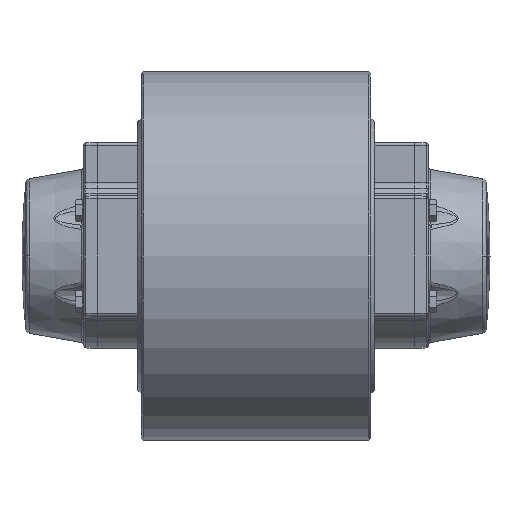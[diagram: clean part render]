
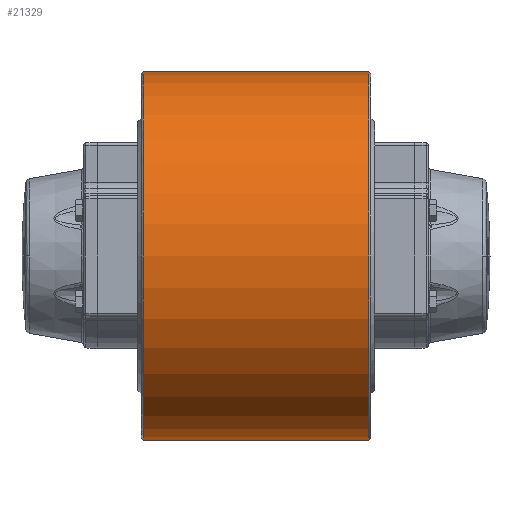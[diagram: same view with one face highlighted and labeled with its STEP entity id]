
A CAD part, front view. The second image highlights one B-rep face of the part: STEP entity #21329.
In plain terms, the highlighted cylindrical face has radius 94.75 mm (diameter 189.5 mm), a partial arc.
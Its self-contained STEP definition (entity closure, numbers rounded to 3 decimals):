
#2660 = CARTESIAN_POINT ( 'NONE',  ( 58., 0., -94.75 ) ) ;
#3675 = CIRCLE ( 'NONE', #87489, 94.75 ) ;
#3940 = LINE ( 'NONE', #45710, #73273 ) ;
#6002 = ORIENTED_EDGE ( 'NONE', *, *, #21813, .T. ) ;
#7542 = DIRECTION ( 'NONE',  ( -1., 0., 0. ) ) ;
#7910 = EDGE_LOOP ( 'NONE', ( #18796, #102062, #38523, #6002, #21853 ) ) ;
#9188 = VERTEX_POINT ( 'NONE', #111696 ) ;
#10849 = CYLINDRICAL_SURFACE ( 'NONE', #12667, 94.75 ) ;
#12442 = VERTEX_POINT ( 'NONE', #106080 ) ;
#12667 = AXIS2_PLACEMENT_3D ( 'NONE', #16313, #7542, #68751 ) ;
#16313 = CARTESIAN_POINT ( 'NONE',  ( 58., 0., 0. ) ) ;
#16466 = AXIS2_PLACEMENT_3D ( 'NONE', #85606, #33604, #94362 ) ;
#18796 = ORIENTED_EDGE ( 'NONE', *, *, #69768, .F. ) ;
#21329 = ADVANCED_FACE ( 'NONE', ( #88298 ), #10849, .T. ) ;
#21378 = CIRCLE ( 'NONE', #16466, 94.75 ) ;
#21813 = EDGE_CURVE ( 'NONE', #12442, #57107, #3940, .T. ) ;
#21853 = ORIENTED_EDGE ( 'NONE', *, *, #98117, .T. ) ;
#28385 = EDGE_CURVE ( 'NONE', #12442, #9188, #3675, .T. ) ;
#30519 = DIRECTION ( 'NONE',  ( 1., 0., 0. ) ) ;
#33604 = DIRECTION ( 'NONE',  ( 1., 0., 0. ) ) ;
#38523 = ORIENTED_EDGE ( 'NONE', *, *, #28385, .F. ) ;
#39084 = CARTESIAN_POINT ( 'NONE',  ( -58., 0., 94.75 ) ) ;
#43620 = LINE ( 'NONE', #2660, #89866 ) ;
#45710 = CARTESIAN_POINT ( 'NONE',  ( 58., 0., 94.75 ) ) ;
#50911 = CARTESIAN_POINT ( 'NONE',  ( 58., 0., 0. ) ) ;
#51780 = VERTEX_POINT ( 'NONE', #70890 ) ;
#57107 = VERTEX_POINT ( 'NONE', #39084 ) ;
#58888 = EDGE_CURVE ( 'NONE', #9188, #73201, #21378, .T. ) ;
#59691 = DIRECTION ( 'NONE',  ( 0., 0., 1. ) ) ;
#68751 = DIRECTION ( 'NONE',  ( 0., 0., 1. ) ) ;
#69768 = EDGE_CURVE ( 'NONE', #73201, #51780, #43620, .T. ) ;
#70890 = CARTESIAN_POINT ( 'NONE',  ( -58., 0., -94.75 ) ) ;
#73201 = VERTEX_POINT ( 'NONE', #105144 ) ;
#73273 = VECTOR ( 'NONE', #106526, 1000. ) ;
#82625 = CARTESIAN_POINT ( 'NONE',  ( -58., 0., 0. ) ) ;
#84161 = CIRCLE ( 'NONE', #99899, 94.75 ) ;
#85606 = CARTESIAN_POINT ( 'NONE',  ( 58., 0., 0. ) ) ;
#87489 = AXIS2_PLACEMENT_3D ( 'NONE', #50911, #111666, #59691 ) ;
#88298 = FACE_OUTER_BOUND ( 'NONE', #7910, .T. ) ;
#89866 = VECTOR ( 'NONE', #106756, 1000. ) ;
#91322 = DIRECTION ( 'NONE',  ( 0., 0., -1. ) ) ;
#94362 = DIRECTION ( 'NONE',  ( 0., 0., 1. ) ) ;
#98117 = EDGE_CURVE ( 'NONE', #57107, #51780, #84161, .T. ) ;
#99899 = AXIS2_PLACEMENT_3D ( 'NONE', #82625, #30519, #91322 ) ;
#102062 = ORIENTED_EDGE ( 'NONE', *, *, #58888, .F. ) ;
#105144 = CARTESIAN_POINT ( 'NONE',  ( 58., 0., -94.75 ) ) ;
#106080 = CARTESIAN_POINT ( 'NONE',  ( 58., 0., 94.75 ) ) ;
#106526 = DIRECTION ( 'NONE',  ( -1., 0., 0. ) ) ;
#106756 = DIRECTION ( 'NONE',  ( -1., 0., 0. ) ) ;
#111666 = DIRECTION ( 'NONE',  ( 1., 0., 0. ) ) ;
#111696 = CARTESIAN_POINT ( 'NONE',  ( 58., -94.75, 0. ) ) ;
